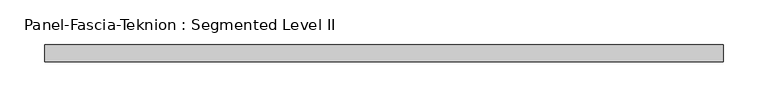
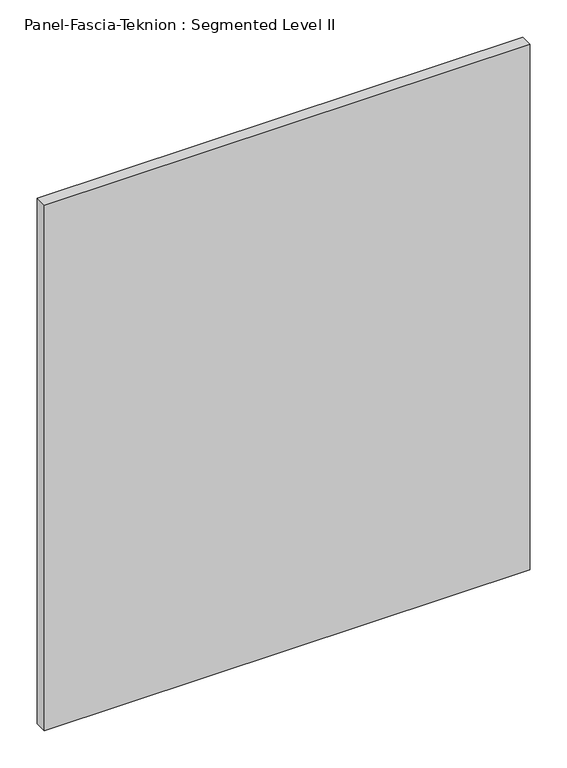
"""IFC4 building model written with IfcOpenShell, lengths in millimetres: proxy geometry, Panel-Fascia-Teknion : Segmented Level II."""

from ifc_helpers import new_model, si_unit, frame, origin, place, context, project, spatial, polyline, outline, extrude, source, transform, mapped, element, save


def panel_fascia_teknion_segmented_level_ii_6a035215(model_context):
    return source(origin(), model_context, "Body", "SweptSolid", [
        extrude(outline(polyline([(378.4203125, -9.525), (-378.4203125, -9.525), (-378.4203125, 9.525), (378.4203125, 9.525), (378.4203125, -9.525)])), frame((0.0, 0.0, 3.175), z_axis=(0.0, 0.0, 1.0), x_axis=(1.0, 0.0, 0.0)), (0.0, 0.0, 1.0), 865.632),
    ])


if __name__ == "__main__":
    model = new_model("IFC4")
    model_context = context("Model", 3, world=origin())
    ifc_project = project(units=[si_unit("LENGTHUNIT", "METRE", prefix="MILLI")], contexts=[model_context])
    site = spatial("IfcSite", under=ifc_project)
    building = spatial("IfcBuilding", under=site)
    placement = place(None, origin())
    panel_fascia_teknion_segmented_level_ii_shape = panel_fascia_teknion_segmented_level_ii_6a035215(model_context)
    element("IfcBuildingElementProxy", 1, Name="Panel-Fascia-Teknion : Segmented Level II", ObjectType="Panel-Fascia-Teknion : Segmented Level II", at=placement, inside=building, context=model_context, shape_type="MappedRepresentation", body=[
        mapped(panel_fascia_teknion_segmented_level_ii_shape, transform((0.0, 0.0, 0.0), x_axis=(1.0, 0.0, 0.0), y_axis=(0.0, 1.0, 0.0), z_axis=(0.0, 0.0, 1.0))),
    ])
    save(model, "model.ifc")
